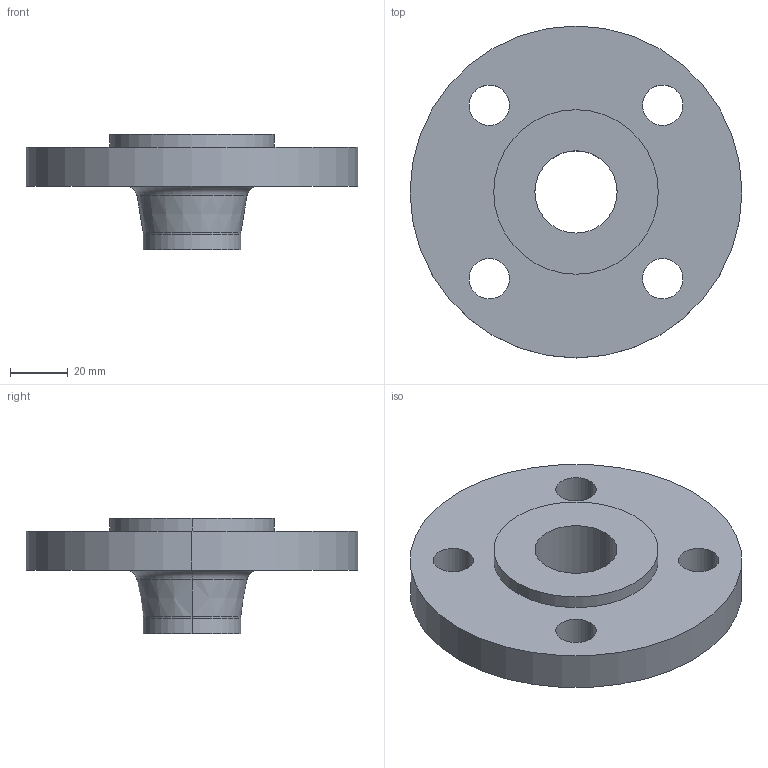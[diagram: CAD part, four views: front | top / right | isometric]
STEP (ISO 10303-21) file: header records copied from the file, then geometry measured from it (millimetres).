
FILE_DESCRIPTION (( 'STEP AP214' ), '1' );
FILE_NAME ('PN40 DN25 Type 11 - Type E Face.STEP', '2018-12-29T20:31:19', ( '' ), ( '' ), 'SwSTEP 2.0', 'SolidWorks 2019', '' );
FILE_SCHEMA (( 'AUTOMOTIVE_DESIGN' ));
Length unit declared in the file: millimetre
Products named in the file (1): PN40 DN25 Type 11 - Type E Face
Bounding box: 115 x 115 x 40 mm (x, y, z)
Volume: 140318.4 mm3; surface area: 31950.7 mm2
Topology: 1 solids, 1 shells, 26 faces, 60 edges, 38 vertices
Faces by surface type: cylinder 16, torus 4, plane 4, cone 2
Entity records: 812 total; most frequent: DIRECTION 156, CARTESIAN_POINT 125, ORIENTED_EDGE 120, AXIS2_PLACEMENT_3D 69, EDGE_CURVE 60, CIRCLE 42, EDGE_LOOP 38, VERTEX_POINT 38
